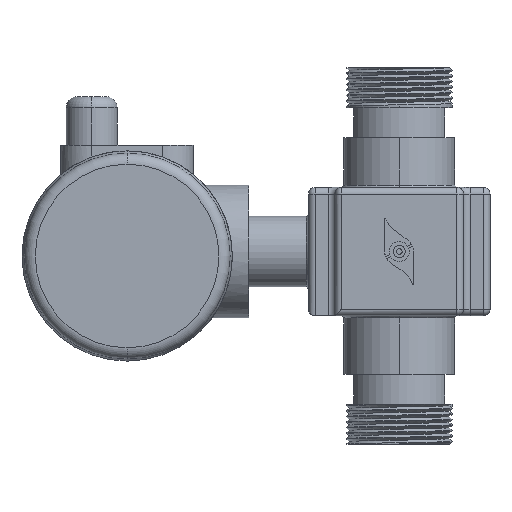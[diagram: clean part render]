
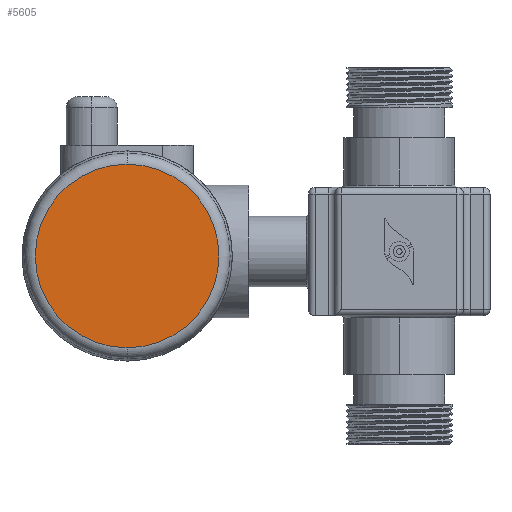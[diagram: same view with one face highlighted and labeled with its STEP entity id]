
A CAD part, left-side view. The second image highlights one B-rep face of the part: STEP entity #5605.
In plain terms, the highlighted planar face has unit normal (-1, 0, 0).
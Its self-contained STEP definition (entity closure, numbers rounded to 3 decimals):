
#265 = EDGE_CURVE ( 'NONE', #4104, #6851, #5693, .T. ) ;
#2211 = DIRECTION ( 'NONE',  ( 0., 0., -1. ) ) ;
#2572 = ORIENTED_EDGE ( 'NONE', *, *, #265, .T. ) ;
#2652 = DIRECTION ( 'NONE',  ( 1., 0., 0. ) ) ;
#2738 = AXIS2_PLACEMENT_3D ( 'NONE', #4421, #3447, #2211 ) ;
#3314 = CIRCLE ( 'NONE', #4034, 41.5 ) ;
#3447 = DIRECTION ( 'NONE',  ( -1., 0., 0. ) ) ;
#3577 = CARTESIAN_POINT ( 'NONE',  ( -62., 123., -85. ) ) ;
#4007 = CARTESIAN_POINT ( 'NONE',  ( -62., 123., -131.5 ) ) ;
#4034 = AXIS2_PLACEMENT_3D ( 'NONE', #3577, #8322, #4277 ) ;
#4104 = VERTEX_POINT ( 'NONE', #4416 ) ;
#4277 = DIRECTION ( 'NONE',  ( 0., 0., -1. ) ) ;
#4416 = CARTESIAN_POINT ( 'NONE',  ( -62., 123., -43.5 ) ) ;
#4421 = CARTESIAN_POINT ( 'NONE',  ( -62., 123., -85. ) ) ;
#4607 = AXIS2_PLACEMENT_3D ( 'NONE', #4007, #2652, #7369 ) ;
#4785 = FACE_OUTER_BOUND ( 'NONE', #8291, .T. ) ;
#5035 = EDGE_CURVE ( 'NONE', #6851, #4104, #3314, .T. ) ;
#5356 = PLANE ( 'NONE',  #4607 ) ;
#5605 = ADVANCED_FACE ( 'NONE', ( #4785 ), #5356, .F. ) ;
#5693 = CIRCLE ( 'NONE', #2738, 41.5 ) ;
#5980 = CARTESIAN_POINT ( 'NONE',  ( -62., 123., -126.5 ) ) ;
#6851 = VERTEX_POINT ( 'NONE', #5980 ) ;
#7369 = DIRECTION ( 'NONE',  ( 0., 0., -1. ) ) ;
#7405 = ORIENTED_EDGE ( 'NONE', *, *, #5035, .T. ) ;
#8291 = EDGE_LOOP ( 'NONE', ( #7405, #2572 ) ) ;
#8322 = DIRECTION ( 'NONE',  ( -1., 0., 0. ) ) ;
